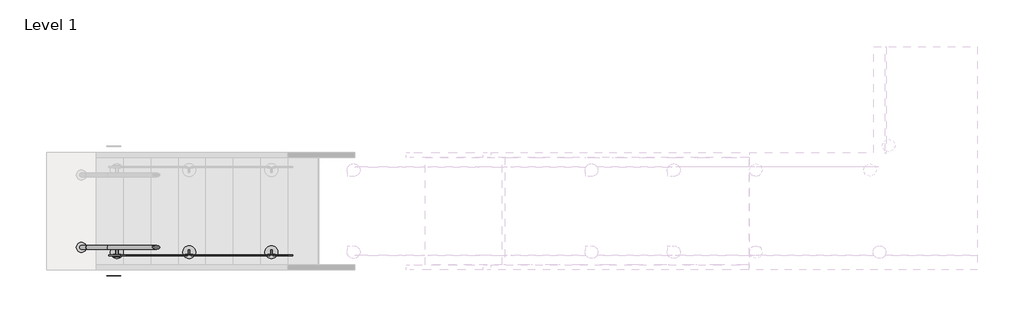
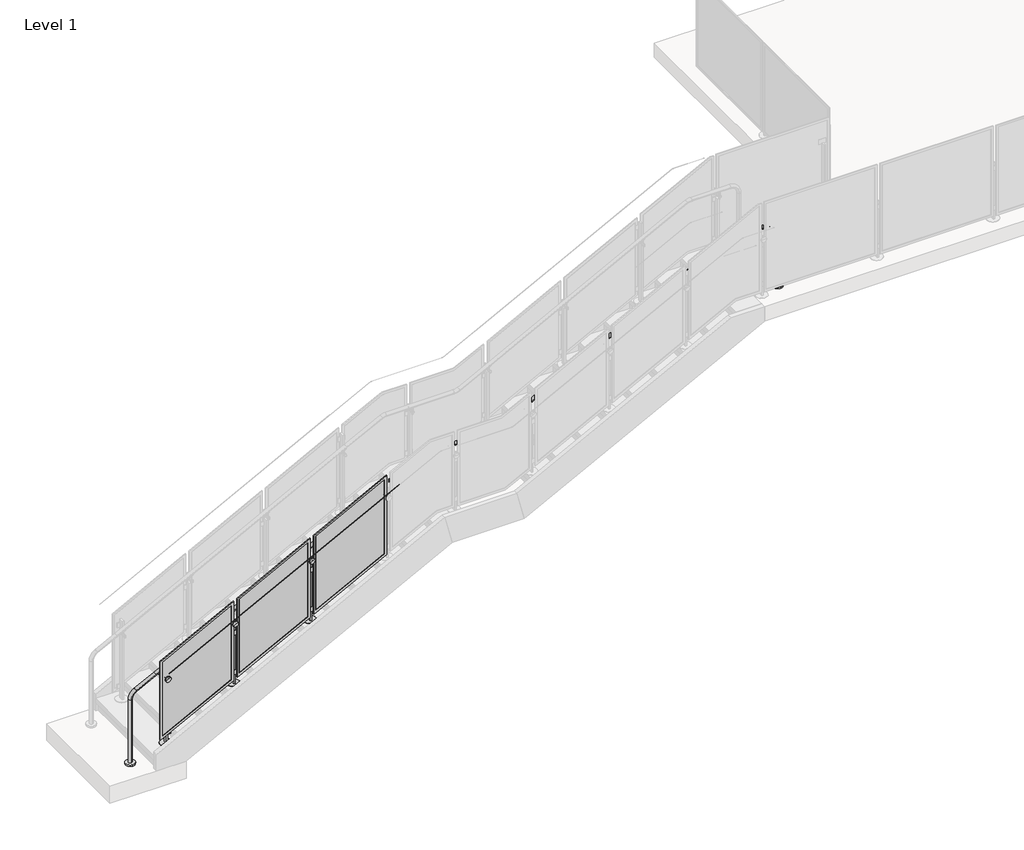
# One storey, part 23 of 28: 1 railing.
"""IFC4 building model written with IfcOpenShell, lengths in millimetres."""

from ifc_helpers import new_model, si_unit, point, frame, frame_2d, origin, place, context, project, spatial, polyline, circle_curve, ellipse_curve, trimmed, segment, composite_curve, outline, extrude, element, save
from ifc_brep_helpers import plane_surface, cylinder_surface, revolved_surface, advanced_brep

model = new_model("IFC4")

# Units and contexts
model_context = context("Model", 3, world=origin())
ifc_project = project(units=[si_unit("LENGTHUNIT", "METRE", prefix="MILLI")], contexts=[model_context])

# Site, building, storey
site = spatial("IfcSite", under=ifc_project)
building = spatial("IfcBuilding", under=site)
storey = spatial("IfcBuildingStorey", under=building, Name="Level 1", Elevation=0.0)

# Railing
placement = place(None, origin())
element("IfcRailing", 1, ObjectType="Metal-Panel-VIVA-STRUC-Top_Core-Stairs--Lower", at=placement, inside=storey, context=model_context, shape_type="SolidModel", body=[
    extrude(outline(composite_curve([segment(trimmed(circle_curve(frame_2d((-12073.0515794, 8556.3431722)), 50.8), [point((-12073.0515794, 8505.5431722))], [point((-12073.0515794, 8607.1431722))], False, "CARTESIAN"), True, "CONTINUOUS"), segment(trimmed(circle_curve(frame_2d((-12073.0515794, 8556.3431722)), 50.8), [point((-12073.0515794, 8607.1431722))], [point((-12073.0515794, 8505.5431722))], False, "CARTESIAN"), True, "CONTINUOUS")], self_intersect=False)), frame((0.0, 0.0, 3047.9164465), z_axis=(0.0, 0.0, 1.0), x_axis=(1.0, 0.0, 0.0)), (0.0, 0.0, 1.0), 19.05),
    extrude(outline(composite_curve([segment(trimmed(circle_curve(frame_2d((-19157.6813244, 8556.3431722)), 50.8), [point((-19157.6813244, 8607.1431722))], [point((-19157.6813244, 8505.5431722))], False, "CARTESIAN"), True, "CONTINUOUS"), segment(trimmed(circle_curve(frame_2d((-19157.6813244, 8556.3431722)), 50.8), [point((-19157.6813244, 8505.5431722))], [point((-19157.6813244, 8607.1431722))], False, "CARTESIAN"), True, "CONTINUOUS")], self_intersect=False)), frame((0.0, 0.0, -0.1113211), z_axis=(0.0, 0.0, 1.0), x_axis=(1.0, 0.0, 0.0)), (0.0, 0.0, 1.0), 19.05),
    advanced_brep(
    [(-19157.6813244, 8537.2931722, 18.9386789), (-19157.6813244, 8575.3931722, 18.9386789), (-19157.6813244, 8537.2931722, 743.6520958), (-19157.6813244, 8575.3931722, 743.6520958), (-19102.917891, 8575.3931722, 833.8124864), (-19102.917891, 8537.2931722, 833.8124864), (-18888.5494682, 8537.2931722, 945.172706), (-18888.5494682, 8575.3931722, 945.172706), (-16373.9494682, 8537.2931722, 2251.4584203), (-16373.9494682, 8575.3931722, 2251.4584203), (-15937.6556338, 8575.3931722, 2465.2134935), (-15937.6556338, 8537.2931722, 2465.2134935), (-15199.5082651, 8537.2931722, 2465.2134935), (-15199.5082651, 8575.3931722, 2465.2134935), (-15135.1079861, 8575.3931722, 2480.9429564), (-15135.1079861, 8537.2931722, 2480.9429564), (-12645.7274553, 8537.2931722, 3774.1276477), (-12645.7274553, 8575.3931722, 3774.1276477), (-15984.4922003, 8537.2931722, 2453.7738841), (-15984.4922003, 8575.3931722, 2453.7738841), (-12598.8908888, 8575.3931722, 3785.5672571), (-12598.8908888, 8537.2931722, 3785.5672571), (-12174.6515794, 8537.2931722, 3785.5672571), (-12174.6515794, 8575.3931722, 3785.5672571), (-12073.0515794, 8575.3931722, 3683.9672571), (-12073.0515794, 8537.2931722, 3683.9672571), (-12073.0515794, 8537.2931722, 3066.9664465), (-12073.0515794, 8575.3931722, 3066.9664465)],
    [
        (0, 1, circle_curve(frame((-19157.6813244, 8556.3431722, 18.9386789), z_axis=(0.0, 0.0, -1.0), x_axis=(0.0, 1.0, 0.0)), 19.05)),
        (1, 0, circle_curve(frame((-19157.6813244, 8556.3431722, 18.9386789), z_axis=(0.0, 0.0, -1.0), x_axis=(0.0, 1.0, 0.0)), 19.05)),
        (0, 2),
        (2, 3, circle_curve(frame((-19157.6813244, 8556.3431722, 743.6520958), z_axis=(0.0, 0.0, -1.0), x_axis=(0.0, 1.0, 0.0)), 19.05)),
        (3, 1),
        (3, 2, circle_curve(frame((-19157.6813244, 8556.3431722, 743.6520958), z_axis=(0.0, 0.0, -1.0), x_axis=(0.0, 1.0, 0.0)), 19.05)),
        (4, 3, circle_curve(frame((-19056.0813244, 8575.3931722, 743.6520958), z_axis=(0.0, -1.0, 0.0), x_axis=(-0.9999999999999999, 0.0, 0.0)), 101.6)),
        (2, 5, circle_curve(frame((-19056.0813244, 8537.2931722, 743.6520958), z_axis=(0.0, 1.0, 0.0), x_axis=(-0.9999999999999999, 0.0, 0.0)), 101.6)),
        (5, 4, circle_curve(frame((-19102.917891, 8556.3431722, 833.8124864), z_axis=(-0.8874054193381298, 0.0, -0.46098982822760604), x_axis=(0.0, 0.9999999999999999, 0.0)), 19.05)),
        (4, 5, circle_curve(frame((-19102.917891, 8556.3431722, 833.8124864), z_axis=(-0.8874054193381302, 0.0, -0.46098982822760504), x_axis=(0.0, 0.9999999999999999, 0.0)), 19.05)),
        (5, 6),
        (6, 7, circle_curve(frame((-18888.5494682, 8556.3431722, 945.172706), z_axis=(-0.8874054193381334, 0.0, -0.46098982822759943), x_axis=(0.0, 1.0, 0.0)), 19.05)),
        (7, 4),
        (7, 6, circle_curve(frame((-18888.5494682, 8556.3431722, 945.172706), z_axis=(-0.8874054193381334, 0.0, -0.46098982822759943), x_axis=(0.0, 1.0, 0.0)), 19.05)),
        (6, 8),
        (8, 9, circle_curve(frame((-16373.9494682, 8556.3431722, 2251.4584203), z_axis=(-0.8874054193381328, 0.0, -0.46098982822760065), x_axis=(0.0, 1.0, 0.0)), 19.05)),
        (9, 7),
        (9, 8, circle_curve(frame((-16373.9494682, 8556.3431722, 2251.4584203), z_axis=(-0.8874054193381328, 0.0, -0.46098982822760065), x_axis=(0.0, 1.0, 0.0)), 19.05)),
        (10, 11, circle_curve(frame((-15937.6556338, 8556.3431722, 2465.2134935), z_axis=(1.0, 0.0, 0.0), x_axis=(0.0, 1.0, 0.0)), 19.05)),
        (11, 12),
        (12, 13, circle_curve(frame((-15199.5082651, 8556.3431722, 2465.2134935), z_axis=(-1.0, 0.0, 0.0), x_axis=(0.0, 1.0, 0.0)), 19.05)),
        (13, 10),
        (11, 10, circle_curve(frame((-15937.6556338, 8556.3431722, 2465.2134935), z_axis=(1.0, 0.0, 0.0), x_axis=(0.0, 1.0, 0.0)), 19.05)),
        (13, 12, circle_curve(frame((-15199.5082651, 8556.3431722, 2465.2134935), z_axis=(-1.0, 0.0, 0.0), x_axis=(0.0, 1.0, 0.0)), 19.05)),
        (14, 15, circle_curve(frame((-15135.1079861, 8556.3431722, 2480.9429564), z_axis=(0.887405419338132, 0.0, 0.46098982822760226), x_axis=(0.0, 1.0, 0.0)), 19.05)),
        (15, 16),
        (16, 17, circle_curve(frame((-12645.7274553, 8556.3431722, 3774.1276477), z_axis=(-0.887405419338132, 0.0, -0.46098982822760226), x_axis=(0.0, 1.0, 0.0)), 19.05)),
        (17, 14),
        (15, 14, circle_curve(frame((-15135.1079861, 8556.3431722, 2480.9429564), z_axis=(0.887405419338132, 0.0, 0.46098982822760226), x_axis=(0.0, 1.0, 0.0)), 19.05)),
        (17, 16, circle_curve(frame((-12645.7274553, 8556.3431722, 3774.1276477), z_axis=(-0.887405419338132, 0.0, -0.46098982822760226), x_axis=(0.0, 1.0, 0.0)), 19.05)),
        (14, 13, circle_curve(frame((-15199.5082651, 8575.3931722, 2604.9134935), z_axis=(0.0, 1.0, 0.0), x_axis=(0.0, 0.0, -1.0)), 139.7)),
        (12, 15, circle_curve(frame((-15199.5082651, 8537.2931722, 2604.9134935), z_axis=(0.0, -1.0, 0.0), x_axis=(0.0, 0.0, -1.0)), 139.7)),
        (8, 18),
        (18, 19, circle_curve(frame((-15984.4922003, 8556.3431722, 2453.7738841), z_axis=(-0.8874054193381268, 0.0, -0.46098982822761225), x_axis=(0.0, 1.0, 0.0)), 19.05)),
        (19, 9),
        (19, 18, circle_curve(frame((-15984.4922003, 8556.3431722, 2453.7738841), z_axis=(-0.8874054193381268, 0.0, -0.46098982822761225), x_axis=(0.0, 1.0, 0.0)), 19.05)),
        (10, 19, circle_curve(frame((-15937.6556338, 8575.3931722, 2363.6134935), z_axis=(0.0, -1.0, 0.0), x_axis=(-0.4609898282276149, 0.0, 0.8874054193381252)), 101.6)),
        (18, 11, circle_curve(frame((-15937.6556338, 8537.2931722, 2363.6134935), z_axis=(0.0, 1.0, 0.0), x_axis=(-0.4609898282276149, 0.0, 0.8874054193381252)), 101.6)),
        (20, 17, circle_curve(frame((-12598.8908888, 8575.3931722, 3683.9672571), z_axis=(0.0, -1.0, 0.0), x_axis=(-0.4609898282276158, 0.0, 0.8874054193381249)), 101.6)),
        (16, 21, circle_curve(frame((-12598.8908888, 8537.2931722, 3683.9672571), z_axis=(0.0, 1.0, 0.0), x_axis=(-0.4609898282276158, 0.0, 0.8874054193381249)), 101.6)),
        (21, 20, circle_curve(frame((-12598.8908888, 8556.3431722, 3785.5672571), z_axis=(-1.0, 0.0, 0.0), x_axis=(0.0, 1.0, 0.0)), 19.05)),
        (20, 21, circle_curve(frame((-12598.8908888, 8556.3431722, 3785.5672571), z_axis=(-1.0, 0.0, 0.0), x_axis=(0.0, 1.0, 0.0)), 19.05)),
        (21, 22),
        (22, 23, circle_curve(frame((-12174.6515794, 8556.3431722, 3785.5672571), z_axis=(-1.0, 0.0, 0.0), x_axis=(0.0, 1.0, 0.0)), 19.05)),
        (23, 20),
        (23, 22, circle_curve(frame((-12174.6515794, 8556.3431722, 3785.5672571), z_axis=(-1.0, 0.0, 0.0), x_axis=(0.0, 1.0, 0.0)), 19.05)),
        (24, 23, circle_curve(frame((-12174.6515794, 8575.3931722, 3683.9672571), z_axis=(0.0, -1.0, 0.0), x_axis=(0.0, 0.0, 1.0)), 101.6)),
        (22, 25, circle_curve(frame((-12174.6515794, 8537.2931722, 3683.9672571), z_axis=(0.0, 1.0, 0.0), x_axis=(0.0, 0.0, 1.0)), 101.6)),
        (25, 24, circle_curve(frame((-12073.0515794, 8556.3431722, 3683.9672571), z_axis=(0.0, 0.0, 1.0), x_axis=(0.0, 1.0, 0.0)), 19.05)),
        (24, 25, circle_curve(frame((-12073.0515794, 8556.3431722, 3683.9672571), z_axis=(0.0, 0.0, 1.0), x_axis=(0.0, 1.0, 0.0)), 19.05)),
        (26, 27, circle_curve(frame((-12073.0515794, 8556.3431722, 3066.9664465), z_axis=(0.0, 0.0, -1.0), x_axis=(0.0, 1.0, 0.0)), 19.05)),
        (27, 26, circle_curve(frame((-12073.0515794, 8556.3431722, 3066.9664465), z_axis=(0.0, 0.0, -1.0), x_axis=(0.0, 1.0, 0.0)), 19.05)),
        (25, 26),
        (27, 24),
    ],
    [
        plane_surface(frame((-19176.7313244, 8518.2431722, 18.9386789), z_axis=(0.0, 0.0, -1.0), x_axis=(1.0, 0.0, 0.0))),
        cylinder_surface(frame((-19157.6813244, 8556.3431722, 18.9386789), z_axis=(0.0, 0.0, -1.0), x_axis=(0.0, 1.0, 0.0)), 19.05),
        revolved_surface(trimmed(ellipse_curve(frame((-19157.6813244, 8556.3431722, 743.6520958), z_axis=(0.0, 0.0, -0.9999999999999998), x_axis=(0.0, 0.9999999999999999, 0.0)), 19.05, 19.05), [point((-19157.6813244, 8537.2931722, 743.6520958))], [point((-19157.6813244, 8575.3931722, 743.6520958))], True, "CARTESIAN"), (-19056.0813244, 8556.3431722, 743.6520958), (0.0, 0.9999999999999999, 0.0)),
        revolved_surface(trimmed(ellipse_curve(frame((-19157.6813244, 8556.3431722, 743.6520958), z_axis=(0.0, 0.0, -0.9999999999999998), x_axis=(0.0, 0.9999999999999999, 0.0)), 19.05, 19.05), [point((-19157.6813244, 8575.3931722, 743.6520958))], [point((-19157.6813244, 8537.2931722, 743.6520958))], True, "CARTESIAN"), (-19056.0813244, 8556.3431722, 743.6520958), (0.0, 0.9999999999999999, 0.0)),
        cylinder_surface(frame((-19102.917891, 8556.3431722, 833.8124864), z_axis=(-0.8874054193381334, 0.0, -0.46098982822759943), x_axis=(0.0, 1.0, 0.0)), 19.05),
        cylinder_surface(frame((-18888.5494682, 8556.3431722, 945.172706), z_axis=(-0.8874054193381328, 0.0, -0.46098982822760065), x_axis=(0.0, 1.0, 0.0)), 19.05),
        cylinder_surface(frame((-15937.6556338, 8556.3431722, 2465.2134935), z_axis=(-1.0, 0.0, 0.0), x_axis=(0.0, 1.0, 0.0)), 19.05),
        cylinder_surface(frame((-15135.1079861, 8556.3431722, 2480.9429564), z_axis=(-0.887405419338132, 0.0, -0.46098982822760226), x_axis=(0.0, 1.0, 0.0)), 19.05),
        revolved_surface(trimmed(ellipse_curve(frame((-15199.5082651, 8556.3431722, 2465.2134935), z_axis=(-1.0, 0.0, 0.0), x_axis=(0.0, 1.0, 0.0)), 19.05, 19.05), [point((-15199.5082651, 8537.2931722, 2465.2134935))], [point((-15199.5082651, 8575.3931722, 2465.2134935))], True, "CARTESIAN"), (-15199.5082651, 8556.3431722, 2604.9134935), (0.0, -1.0, 0.0)),
        revolved_surface(trimmed(ellipse_curve(frame((-15199.5082651, 8556.3431722, 2465.2134935), z_axis=(-1.0, 0.0, 0.0), x_axis=(0.0, 1.0, 0.0)), 19.05, 19.05), [point((-15199.5082651, 8575.3931722, 2465.2134935))], [point((-15199.5082651, 8537.2931722, 2465.2134935))], True, "CARTESIAN"), (-15199.5082651, 8556.3431722, 2604.9134935), (0.0, -1.0, 0.0)),
        cylinder_surface(frame((-16373.9494682, 8556.3431722, 2251.4584203), z_axis=(-0.8874054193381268, 0.0, -0.46098982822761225), x_axis=(0.0, 1.0, 0.0)), 19.05),
        revolved_surface(trimmed(ellipse_curve(frame((-15984.4922003, 8556.3431722, 2453.7738841), z_axis=(-0.8874054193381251, 0.0, -0.4609898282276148), x_axis=(0.0, 0.9999999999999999, 0.0)), 19.05, 19.05), [point((-15984.4922003, 8537.2931722, 2453.7738841))], [point((-15984.4922003, 8575.3931722, 2453.7738841))], True, "CARTESIAN"), (-15937.6556338, 8556.3431722, 2363.6134935), (0.0, 0.9999999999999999, 0.0)),
        revolved_surface(trimmed(ellipse_curve(frame((-15984.4922003, 8556.3431722, 2453.7738841), z_axis=(-0.8874054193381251, 0.0, -0.4609898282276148), x_axis=(0.0, 0.9999999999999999, 0.0)), 19.05, 19.05), [point((-15984.4922003, 8575.3931722, 2453.7738841))], [point((-15984.4922003, 8537.2931722, 2453.7738841))], True, "CARTESIAN"), (-15937.6556338, 8556.3431722, 2363.6134935), (0.0, 0.9999999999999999, 0.0)),
        revolved_surface(trimmed(ellipse_curve(frame((-12645.7274553, 8556.3431722, 3774.1276477), z_axis=(-0.8874054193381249, 0.0, -0.4609898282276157), x_axis=(0.0, 1.0, 0.0)), 19.05, 19.05), [point((-12645.7274553, 8537.2931722, 3774.1276477))], [point((-12645.7274553, 8575.3931722, 3774.1276477))], True, "CARTESIAN"), (-12598.8908888, 8556.3431722, 3683.9672571), (0.0, 1.0, 0.0)),
        revolved_surface(trimmed(ellipse_curve(frame((-12645.7274553, 8556.3431722, 3774.1276477), z_axis=(-0.8874054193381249, 0.0, -0.4609898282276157), x_axis=(0.0, 1.0, 0.0)), 19.05, 19.05), [point((-12645.7274553, 8575.3931722, 3774.1276477))], [point((-12645.7274553, 8537.2931722, 3774.1276477))], True, "CARTESIAN"), (-12598.8908888, 8556.3431722, 3683.9672571), (0.0, 1.0, 0.0)),
        cylinder_surface(frame((-12598.8908888, 8556.3431722, 3785.5672571), z_axis=(-1.0, 0.0, 0.0), x_axis=(0.0, 1.0, 0.0)), 19.05),
        revolved_surface(trimmed(ellipse_curve(frame((-12174.6515794, 8556.3431722, 3785.5672571), z_axis=(-1.0, 0.0, 0.0), x_axis=(0.0, 1.0, 0.0)), 19.05, 19.05), [point((-12174.6515794, 8537.2931722, 3785.5672571))], [point((-12174.6515794, 8575.3931722, 3785.5672571))], True, "CARTESIAN"), (-12174.6515794, 8556.3431722, 3683.9672571), (0.0, 1.0, 0.0)),
        revolved_surface(trimmed(ellipse_curve(frame((-12174.6515794, 8556.3431722, 3785.5672571), z_axis=(-1.0, 0.0, 0.0), x_axis=(0.0, 1.0, 0.0)), 19.05, 19.05), [point((-12174.6515794, 8575.3931722, 3785.5672571))], [point((-12174.6515794, 8537.2931722, 3785.5672571))], True, "CARTESIAN"), (-12174.6515794, 8556.3431722, 3683.9672571), (0.0, 1.0, 0.0)),
        plane_surface(frame((-12054.0015794, 8518.2431722, 3066.9664465), z_axis=(0.0, 0.0, -1.0), x_axis=(-1.0, 0.0, 0.0))),
        cylinder_surface(frame((-12073.0515794, 8556.3431722, 3683.9672571), z_axis=(0.0, 0.0, 1.0), x_axis=(0.0, 1.0, 0.0)), 19.05),
    ],
    [
        (0, [[1, 2]]),
        (1, [[-1, 3, 4, 5]]),
        (1, [[-2, -5, 6, -3]]),
        (2, [[7, -4, 8, 9]]),
        (3, [[-8, -6, -7, 10]]),
        (4, [[-9, 11, 12, 13]]),
        (4, [[-10, -13, 14, -11]]),
        (5, [[-12, 15, 16, 17]]),
        (5, [[-14, -17, 18, -15]]),
        (6, [[19, 20, 21, 22]]),
        (6, [[23, -22, 24, -20]]),
        (7, [[25, 26, 27, 28]]),
        (7, [[29, -28, 30, -26]]),
        (8, [[31, -21, 32, -25]]),
        (9, [[-32, -24, -31, -29]]),
        (10, [[-16, 33, 34, 35]]),
        (10, [[-18, -35, 36, -33]]),
        (11, [[37, -34, 38, -19]]),
        (12, [[-38, -36, -37, -23]]),
        (13, [[39, -27, 40, 41]]),
        (14, [[-40, -30, -39, 42]]),
        (15, [[-41, 43, 44, 45]]),
        (15, [[-42, -45, 46, -43]]),
        (16, [[47, -44, 48, 49]]),
        (17, [[-48, -46, -47, 50]]),
        (18, [[51, 52]]),
        (19, [[-49, 53, -52, 54]]),
        (19, [[-50, -54, -51, -53]]),
    ],
),
    advanced_brep(
    [(-18897.3313244, 8263.5937722, 1127.7573389), (-18897.3313244, 8264.5937722, 1127.7573389), (-16382.7313244, 8263.5937722, 2434.0430532), (-16382.7313244, 8264.5937722, 2434.0430532)],
    [
        (0, 1, ellipse_curve(frame((-18897.3313244, 8264.0937722, 1127.7573389), z_axis=(-1.0, 0.0, 0.0), x_axis=(0.0, 0.0, -0.9999999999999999)), 0.5634403, 0.5)),
        (1, 0, ellipse_curve(frame((-18897.3313244, 8264.0937722, 1127.7573389), z_axis=(-1.0, 0.0, 0.0), x_axis=(0.0, 0.0, -0.9999999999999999)), 0.5634403, 0.5)),
        (2, 3, ellipse_curve(frame((-16382.7313244, 8264.0937722, 2434.0430532), z_axis=(1.0, 0.0, 0.0), x_axis=(0.0, 0.0, -0.9999999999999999)), 0.5634403, 0.5)),
        (3, 2, ellipse_curve(frame((-16382.7313244, 8264.0937722, 2434.0430532), z_axis=(1.0, 0.0, 0.0), x_axis=(0.0, 0.0, -0.9999999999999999)), 0.5634403, 0.5)),
        (0, 2),
        (3, 1),
    ],
    [
        plane_surface(frame((-18897.3313244, 8264.0937722, 1128.3207792), z_axis=(-1.0, 0.0, 0.0), x_axis=(0.0, 1.0, 0.0))),
        plane_surface(frame((-16382.7313244, 8264.0937722, 2434.6064935), z_axis=(1.0, 0.0, 0.0), x_axis=(0.0, 1.0, 0.0))),
        cylinder_surface(frame((-18897.1008295, 8264.0937722, 1127.8770765), z_axis=(-0.8874054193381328, 0.0, -0.4609898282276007), x_axis=(0.0, 1.0, 0.0)), 0.5),
    ],
    [
        (0, [[1, 2]]),
        (1, [[3, 4]]),
        (2, [[-1, 5, -4, 6]]),
        (2, [[-2, -6, -3, -5]]),
    ],
),
    extrude(outline(polyline([(1991.198934, -17176.4853675), (1137.4121771, -17176.4853675), (1526.663131, -16427.1772814), (2380.4498878, -16427.1772814), (1991.198934, -17176.4853675)])), frame((0.0, 8475.1125722, 0.0), z_axis=(0.0, 1.0, 0.0), x_axis=(0.0, 0.0, 1.0)), (0.0, 0.0, 1.0), 3.0),
    extrude(outline(polyline([(1095.5946033, -17201.8853675), (1511.2351675, -16401.7772814), (2422.2674616, -16401.7772814), (2006.6268974, -17201.8853675), (1095.5946033, -17201.8853675)]), holes=[polyline([(1991.198934, -17176.4853675), (2380.4498878, -16427.1772814), (1526.663131, -16427.1772814), (1137.4121771, -17176.4853675), (1991.198934, -17176.4853675)])]), frame((0.0, 8468.5875722, 0.0), z_axis=(0.0, 1.0, 0.0), x_axis=(0.0, 0.0, 1.0)), (0.0, 0.0, 1.0), 9.525),
    extrude(outline(polyline([(-17259.0320437, 8485.1469722), (-17182.8306052, 8485.1469722), (-17182.8306052, 8478.0349722), (-17259.0320437, 8478.0349722), (-17259.0320437, 8485.1469722)])), frame((0.0, 0.0, 1585.976), z_axis=(0.0, 0.0, 1.0), x_axis=(1.0, 0.0, 0.0)), (0.0, 0.0, 1.0), 50.8),
    extrude(outline(polyline([(-17259.0320437, 8485.1469722), (-17182.8306052, 8485.1469722), (-17182.8306052, 8478.0349722), (-17259.0320437, 8478.0349722), (-17259.0320437, 8485.1469722)])), frame((0.0, 0.0, 1128.776), z_axis=(0.0, 0.0, 1.0), x_axis=(1.0, 0.0, 0.0)), (0.0, 0.0, 1.0), 50.8),
    extrude(outline(composite_curve([segment(polyline([(2.99974, 1e-07), (0.0, 0.0)]), True, "CONTINUOUS"), segment(trimmed(circle_curve(frame_2d((-19.0451471, 0.0)), 19.0451471), [point((0.0, 0.0))], [point((-23.6280664, 18.4855208))], True, "CARTESIAN"), True, "CONTINUOUS"), segment(polyline([(-23.6280664, 18.4855208), (-24.3499073, 21.397116)]), True, "CONTINUOUS"), segment(trimmed(circle_curve(frame_2d((-19.0451471, 0.0)), 22.0448871), [point((-24.3499073, 21.397116))], [point((2.99974, 1e-07))], False, "CARTESIAN"), True, "CONTINUOUS")], self_intersect=False)), frame((-17283.4190349, 8539.2349722, 1757.5297189), z_axis=(0.8874054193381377, 0.0, 0.46098982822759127), x_axis=(0.28405456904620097, -0.7876022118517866, -0.5468050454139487)), (0.0, 0.0, 1.0), 79.1184357),
    advanced_brep(
    [(-17208.5341468, 8554.2349722, 1699.1899551), (-17208.5341468, 8547.0912222, 1699.1899551), (-17208.5341468, 8561.3787222, 1699.1899551), (-17244.3933931, 8547.0912222, 1768.2190042), (-17244.3933931, 8554.2349722, 1768.2190042), (-17244.3933931, 8561.3787222, 1768.2190042)],
    [
        (0, 1),
        (1, 2, circle_curve(frame((-17208.5341468, 8554.2349722, 1699.1899551), z_axis=(0.4609898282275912, 0.0, -0.8874054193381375), x_axis=(0.0, 1.0000000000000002, 0.0)), 7.14375)),
        (2, 0),
        (3, 4),
        (4, 5),
        (5, 3, circle_curve(frame((-17244.3933931, 8554.2349722, 1768.2190042), z_axis=(-0.4609898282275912, 0.0, 0.8874054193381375), x_axis=(0.0, 1.0000000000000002, 0.0)), 7.14375)),
        (2, 1, circle_curve(frame((-17208.5341468, 8554.2349722, 1699.1899551), z_axis=(0.4609898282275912, 0.0, -0.8874054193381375), x_axis=(0.0, 1.0000000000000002, 0.0)), 7.14375)),
        (3, 5, circle_curve(frame((-17244.3933931, 8554.2349722, 1768.2190042), z_axis=(-0.4609898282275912, 0.0, 0.8874054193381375), x_axis=(0.0, 1.0000000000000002, 0.0)), 7.14375)),
        (1, 3),
        (5, 2),
    ],
    [
        plane_surface(frame((-17208.5341468, 8554.2349722, 1699.1899551), z_axis=(0.4609898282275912, 0.0, -0.8874054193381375), x_axis=(0.0, 1.0, 0.0))),
        plane_surface(frame((-17244.3933931, 8554.2349722, 1768.2190042), z_axis=(-0.4609898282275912, 0.0, 0.8874054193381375), x_axis=(0.0, 1.0, 0.0))),
        cylinder_surface(frame((-17091.5799469, 8554.2349722, 1474.0531204), z_axis=(0.4609898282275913, 0.0, -0.8874054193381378), x_axis=(0.0, 1.0000000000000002, 0.0)), 7.14375),
    ],
    [
        (0, [[1, 2, 3]]),
        (1, [[4, 5, 6]]),
        (0, [[-3, 7, -1]]),
        (1, [[-5, -4, 8]]),
        (2, [[9, -6, 10, -2]]),
        (2, [[-10, -8, -9, -7]]),
    ],
),
    advanced_brep(
    [(-17247.6976904, 8468.5099722, 1709.1499164), (-17226.5663488, 8468.5099722, 1720.1272367), (-17215.2963, 8468.5099722, 1725.9818075), (-17194.1649585, 8468.5099722, 1736.9591278), (-17247.6976904, 8460.5724722, 1709.1499164), (-17194.1649585, 8460.5724722, 1736.9591278), (-17247.6976904, 8485.9724722, 1709.1499164), (-17232.2013733, 8485.9724722, 1717.1999513), (-17209.6612756, 8485.9724722, 1728.9090929), (-17194.1649585, 8485.9724722, 1736.9591278), (-17247.6976904, 8478.0349722, 1709.1499164), (-17194.1649585, 8478.0349722, 1736.9591278), (-17220.9313244, 8460.5724722, 1723.0545221), (-17232.2013733, 8565.3474722, 1717.1999513), (-17220.9313244, 8565.3474722, 1723.0545221), (-17209.6612756, 8565.3474722, 1728.9090929), (-17226.5663488, 8478.0349722, 1720.1272367), (-17215.2963, 8478.0349722, 1725.9818075)],
    [
        (0, 1),
        (1, 2, circle_curve(frame((-17220.9313244, 8468.5099722, 1723.0545221), z_axis=(0.0, -1.0, 0.0), x_axis=(0.887405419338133, 0.0, 0.46098982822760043)), 6.35)),
        (2, 3),
        (3, 0, circle_curve(frame((-17220.9313244, 8468.5099722, 1723.0545221), z_axis=(0.0, 1.0, 0.0), x_axis=(0.887405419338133, 0.0, 0.46098982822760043)), 30.1625)),
        (4, 0),
        (3, 5),
        (5, 4, circle_curve(frame((-17220.9313244, 8460.5724722, 1723.0545221), z_axis=(0.0, 1.0, 0.0), x_axis=(0.887405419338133, 0.0, 0.46098982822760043)), 30.1625)),
        (6, 7),
        (7, 8, circle_curve(frame((-17220.9313244, 8485.9724722, 1723.0545221), z_axis=(0.0, -1.0, 0.0), x_axis=(0.887405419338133, 0.0, 0.46098982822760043)), 12.7)),
        (8, 9),
        (9, 6, circle_curve(frame((-17220.9313244, 8485.9724722, 1723.0545221), z_axis=(0.0, 1.0, 0.0), x_axis=(0.887405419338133, 0.0, 0.46098982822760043)), 30.1625)),
        (10, 6),
        (9, 11),
        (11, 10, circle_curve(frame((-17220.9313244, 8478.0349722, 1723.0545221), z_axis=(0.0, 1.0, 0.0), x_axis=(0.887405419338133, 0.0, 0.46098982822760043)), 30.1625)),
        (3, 0, circle_curve(frame((-17220.9313244, 8468.5099722, 1723.0545221), z_axis=(0.0, -1.0, 0.0), x_axis=(0.887405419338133, 0.0, 0.46098982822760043)), 30.1625)),
        (4, 5, circle_curve(frame((-17220.9313244, 8460.5724722, 1723.0545221), z_axis=(0.0, 1.0, 0.0), x_axis=(0.887405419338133, 0.0, 0.46098982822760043)), 30.1625)),
        (12, 4),
        (5, 12),
        (13, 14),
        (14, 15),
        (15, 13, circle_curve(frame((-17220.9313244, 8565.3474722, 1723.0545221), z_axis=(0.0, 1.0, 0.0), x_axis=(0.887405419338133, 0.0, 0.46098982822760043)), 12.7)),
        (13, 15, circle_curve(frame((-17220.9313244, 8565.3474722, 1723.0545221), z_axis=(0.0, 1.0, 0.0), x_axis=(0.887405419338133, 0.0, 0.46098982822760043)), 12.7)),
        (7, 13),
        (15, 8),
        (7, 8, circle_curve(frame((-17220.9313244, 8485.9724722, 1723.0545221), z_axis=(0.0, 1.0, 0.0), x_axis=(0.887405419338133, 0.0, 0.46098982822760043)), 12.7)),
        (6, 9, circle_curve(frame((-17220.9313244, 8485.9724722, 1723.0545221), z_axis=(0.0, 1.0, 0.0), x_axis=(0.887405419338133, 0.0, 0.46098982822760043)), 30.1625)),
        (10, 11, circle_curve(frame((-17220.9313244, 8478.0349722, 1723.0545221), z_axis=(0.0, 1.0, 0.0), x_axis=(0.887405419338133, 0.0, 0.46098982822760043)), 30.1625)),
        (16, 10),
        (11, 17),
        (17, 16, circle_curve(frame((-17220.9313244, 8478.0349722, 1723.0545221), z_axis=(0.0, 1.0, 0.0), x_axis=(0.887405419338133, 0.0, 0.46098982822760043)), 6.35)),
        (16, 17, circle_curve(frame((-17220.9313244, 8478.0349722, 1723.0545221), z_axis=(0.0, 1.0, 0.0), x_axis=(0.887405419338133, 0.0, 0.46098982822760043)), 6.35)),
        (1, 16),
        (17, 2),
        (1, 2, circle_curve(frame((-17220.9313244, 8468.5099722, 1723.0545221), z_axis=(0.0, 1.0, 0.0), x_axis=(0.887405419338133, 0.0, 0.46098982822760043)), 6.35)),
    ],
    [
        plane_surface(frame((-17220.9313244, 8468.5099722, 1723.0545221), z_axis=(0.0, 1.0000000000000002, 0.0), x_axis=(0.887405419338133, 0.0, 0.46098982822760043))),
        cylinder_surface(frame((-17220.9313244, 6954.0349722, 1723.0545221), z_axis=(0.0, -1.0000000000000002, 0.0), x_axis=(0.887405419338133, 0.0, 0.46098982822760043)), 30.1625),
        plane_surface(frame((-17220.9313244, 8485.9724722, 1723.0545221), z_axis=(0.0, 1.0000000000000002, 0.0), x_axis=(0.887405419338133, 0.0, 0.46098982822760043))),
        plane_surface(frame((-17220.9313244, 8460.5724722, 1723.0545221), z_axis=(0.0, -1.0000000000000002, 0.0), x_axis=(0.887405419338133, 0.0, 0.46098982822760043))),
        plane_surface(frame((-17220.9313244, 8565.3474722, 1723.0545221), z_axis=(0.0, 1.0000000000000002, 0.0), x_axis=(0.887405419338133, 0.0, 0.46098982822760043))),
        cylinder_surface(frame((-17220.9313244, 6954.0349722, 1723.0545221), z_axis=(0.0, -1.0000000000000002, 0.0), x_axis=(0.887405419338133, 0.0, 0.46098982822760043)), 12.7),
        plane_surface(frame((-17220.9313244, 8478.0349722, 1723.0545221), z_axis=(0.0, -1.0000000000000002, 0.0), x_axis=(0.887405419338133, 0.0, 0.46098982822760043))),
        cylinder_surface(frame((-17220.9313244, 6954.0349722, 1723.0545221), z_axis=(0.0, -1.0000000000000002, 0.0), x_axis=(0.887405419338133, 0.0, 0.46098982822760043)), 6.35),
    ],
    [
        (0, [[1, 2, 3, 4]]),
        (1, [[5, -4, 6, 7]]),
        (2, [[8, 9, 10, 11]]),
        (1, [[12, -11, 13, 14]]),
        (1, [[-6, 15, -5, 16]]),
        (3, [[17, -7, 18]]),
        (3, [[-18, -16, -17]]),
        (4, [[19, 20, 21]]),
        (4, [[-20, -19, 22]]),
        (5, [[23, -21, 24, -9]]),
        (5, [[-24, -22, -23, 25]]),
        (2, [[-10, -25, -8, 26]]),
        (1, [[-13, -26, -12, 27]]),
        (6, [[28, -14, 29, 30]]),
        (6, [[-29, -27, -28, 31]]),
        (7, [[32, -30, 33, -2]]),
        (7, [[-33, -31, -32, 34]]),
        (0, [[-3, -34, -1, -15]]),
    ],
),
    extrude(outline(composite_curve([segment(trimmed(circle_curve(frame_2d((-17220.9313244, 8507.3719722)), 65.8876), [point((-17220.9313244, 8441.4843722))], [point((-17220.9313244, 8573.2595722))], False, "CARTESIAN"), True, "CONTINUOUS"), segment(trimmed(circle_curve(frame_2d((-17220.9313244, 8507.3719722)), 65.8876), [point((-17220.9313244, 8573.2595722))], [point((-17220.9313244, 8441.4843722))], False, "CARTESIAN"), True, "CONTINUOUS")], self_intersect=False)), frame((0.0, 0.0, 1016.0), z_axis=(0.0, 0.0, 1.0), x_axis=(1.0, 0.0, 0.0)), (0.0, 0.0, 1.0), 2.9821299),
    extrude(outline(polyline([(-17228.8709161, 8529.5969722), (-17212.9917328, 8529.5969722), (-17212.9917328, 8485.1469722), (-17228.8709161, 8485.1469722), (-17228.8709161, 8529.5969722)])), frame((0.0, 0.0, 914.4), z_axis=(0.0, 0.0, 1.0), x_axis=(1.0, 0.0, 0.0)), (0.0, 0.0, 1.0), 762.0),
    extrude(outline(polyline([(1555.7703626, -18014.6853675), (701.9836057, -18014.6853675), (1091.2345595, -17265.3772814), (1945.0213164, -17265.3772814), (1555.7703626, -18014.6853675)])), frame((0.0, 8475.1125722, 0.0), z_axis=(0.0, 1.0, 0.0), x_axis=(0.0, 0.0, 1.0)), (0.0, 0.0, 1.0), 3.0),
    extrude(outline(polyline([(660.1660319, -18040.0853675), (1075.8065961, -17239.9772814), (1986.8388902, -17239.9772814), (1571.198326, -18040.0853675), (660.1660319, -18040.0853675)]), holes=[polyline([(1555.7703626, -18014.6853675), (1945.0213164, -17265.3772814), (1091.2345595, -17265.3772814), (701.9836057, -18014.6853675), (1555.7703626, -18014.6853675)])]), frame((0.0, 8468.5875722, 0.0), z_axis=(0.0, 1.0, 0.0), x_axis=(0.0, 0.0, 1.0)), (0.0, 0.0, 1.0), 9.525),
    extrude(outline(polyline([(-18097.2320437, 8485.1469722), (-18021.0306052, 8485.1469722), (-18021.0306052, 8478.0349722), (-18097.2320437, 8478.0349722), (-18097.2320437, 8485.1469722)])), frame((0.0, 0.0, 1150.5474286), z_axis=(0.0, 0.0, 1.0), x_axis=(1.0, 0.0, 0.0)), (0.0, 0.0, 1.0), 50.8),
    extrude(outline(polyline([(-18097.2320437, 8485.1469722), (-18021.0306052, 8485.1469722), (-18021.0306052, 8478.0349722), (-18097.2320437, 8478.0349722), (-18097.2320437, 8485.1469722)])), frame((0.0, 0.0, 693.3474286), z_axis=(0.0, 0.0, 1.0), x_axis=(1.0, 0.0, 0.0)), (0.0, 0.0, 1.0), 50.8),
    extrude(outline(composite_curve([segment(polyline([(2.99974, 1e-07), (0.0, 0.0)]), True, "CONTINUOUS"), segment(trimmed(circle_curve(frame_2d((-19.0451471, 0.0)), 19.0451471), [point((0.0, 0.0))], [point((-23.6280664, 18.4855208))], True, "CARTESIAN"), True, "CONTINUOUS"), segment(polyline([(-23.6280664, 18.4855208), (-24.3499073, 21.397116)]), True, "CONTINUOUS"), segment(trimmed(circle_curve(frame_2d((-19.0451471, 0.0)), 22.0448871), [point((-24.3499073, 21.397116))], [point((2.99974, 1e-07))], False, "CARTESIAN"), True, "CONTINUOUS")], self_intersect=False)), frame((-18121.6190349, 8539.2349722, 1322.1011475), z_axis=(0.8874054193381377, 0.0, 0.46098982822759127), x_axis=(0.28405456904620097, -0.7876022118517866, -0.5468050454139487)), (0.0, 0.0, 1.0), 79.1184357),
    advanced_brep(
    [(-18046.7341468, 8554.2349722, 1263.7613837), (-18046.7341468, 8547.0912222, 1263.7613837), (-18046.7341468, 8561.3787222, 1263.7613837), (-18082.5933931, 8547.0912222, 1332.7904328), (-18082.5933931, 8554.2349722, 1332.7904328), (-18082.5933931, 8561.3787222, 1332.7904328)],
    [
        (0, 1),
        (1, 2, circle_curve(frame((-18046.7341468, 8554.2349722, 1263.7613837), z_axis=(0.4609898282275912, 0.0, -0.8874054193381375), x_axis=(0.0, 1.0000000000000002, 0.0)), 7.14375)),
        (2, 0),
        (3, 4),
        (4, 5),
        (5, 3, circle_curve(frame((-18082.5933931, 8554.2349722, 1332.7904328), z_axis=(-0.4609898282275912, 0.0, 0.8874054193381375), x_axis=(0.0, 1.0000000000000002, 0.0)), 7.14375)),
        (2, 1, circle_curve(frame((-18046.7341468, 8554.2349722, 1263.7613837), z_axis=(0.4609898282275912, 0.0, -0.8874054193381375), x_axis=(0.0, 1.0000000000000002, 0.0)), 7.14375)),
        (3, 5, circle_curve(frame((-18082.5933931, 8554.2349722, 1332.7904328), z_axis=(-0.4609898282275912, 0.0, 0.8874054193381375), x_axis=(0.0, 1.0000000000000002, 0.0)), 7.14375)),
        (1, 3),
        (5, 2),
    ],
    [
        plane_surface(frame((-18046.7341468, 8554.2349722, 1263.7613837), z_axis=(0.4609898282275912, 0.0, -0.8874054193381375), x_axis=(0.0, 1.0, 0.0))),
        plane_surface(frame((-18082.5933931, 8554.2349722, 1332.7904328), z_axis=(-0.4609898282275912, 0.0, 0.8874054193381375), x_axis=(0.0, 1.0, 0.0))),
        cylinder_surface(frame((-17929.7799469, 8554.2349722, 1038.624549), z_axis=(0.4609898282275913, 0.0, -0.8874054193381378), x_axis=(0.0, 1.0000000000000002, 0.0)), 7.14375),
    ],
    [
        (0, [[1, 2, 3]]),
        (1, [[4, 5, 6]]),
        (0, [[-3, 7, -1]]),
        (1, [[-5, -4, 8]]),
        (2, [[9, -6, 10, -2]]),
        (2, [[-10, -8, -9, -7]]),
    ],
),
    advanced_brep(
    [(-18085.8976904, 8468.5099722, 1273.721345), (-18064.7663488, 8468.5099722, 1284.6986652), (-18053.4963, 8468.5099722, 1290.5532361), (-18032.3649585, 8468.5099722, 1301.5305563), (-18085.8976904, 8460.5724722, 1273.721345), (-18032.3649585, 8460.5724722, 1301.5305563), (-18085.8976904, 8485.9724722, 1273.721345), (-18070.4013733, 8485.9724722, 1281.7713798), (-18047.8612756, 8485.9724722, 1293.4805215), (-18032.3649585, 8485.9724722, 1301.5305563), (-18085.8976904, 8478.0349722, 1273.721345), (-18032.3649585, 8478.0349722, 1301.5305563), (-18059.1313244, 8460.5724722, 1287.6259506), (-18070.4013733, 8565.3474722, 1281.7713798), (-18059.1313244, 8565.3474722, 1287.6259506), (-18047.8612756, 8565.3474722, 1293.4805215), (-18064.7663488, 8478.0349722, 1284.6986652), (-18053.4963, 8478.0349722, 1290.5532361)],
    [
        (0, 1),
        (1, 2, circle_curve(frame((-18059.1313244, 8468.5099722, 1287.6259506), z_axis=(0.0, -1.0, 0.0), x_axis=(0.887405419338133, 0.0, 0.46098982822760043)), 6.35)),
        (2, 3),
        (3, 0, circle_curve(frame((-18059.1313244, 8468.5099722, 1287.6259506), z_axis=(0.0, 1.0, 0.0), x_axis=(0.887405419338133, 0.0, 0.46098982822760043)), 30.1625)),
        (4, 0),
        (3, 5),
        (5, 4, circle_curve(frame((-18059.1313244, 8460.5724722, 1287.6259506), z_axis=(0.0, 1.0, 0.0), x_axis=(0.887405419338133, 0.0, 0.46098982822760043)), 30.1625)),
        (6, 7),
        (7, 8, circle_curve(frame((-18059.1313244, 8485.9724722, 1287.6259506), z_axis=(0.0, -1.0, 0.0), x_axis=(0.887405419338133, 0.0, 0.46098982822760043)), 12.7)),
        (8, 9),
        (9, 6, circle_curve(frame((-18059.1313244, 8485.9724722, 1287.6259506), z_axis=(0.0, 1.0, 0.0), x_axis=(0.887405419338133, 0.0, 0.46098982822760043)), 30.1625)),
        (10, 6),
        (9, 11),
        (11, 10, circle_curve(frame((-18059.1313244, 8478.0349722, 1287.6259506), z_axis=(0.0, 1.0, 0.0), x_axis=(0.887405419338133, 0.0, 0.46098982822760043)), 30.1625)),
        (3, 0, circle_curve(frame((-18059.1313244, 8468.5099722, 1287.6259506), z_axis=(0.0, -1.0, 0.0), x_axis=(0.887405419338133, 0.0, 0.46098982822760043)), 30.1625)),
        (4, 5, circle_curve(frame((-18059.1313244, 8460.5724722, 1287.6259506), z_axis=(0.0, 1.0, 0.0), x_axis=(0.887405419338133, 0.0, 0.46098982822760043)), 30.1625)),
        (12, 4),
        (5, 12),
        (13, 14),
        (14, 15),
        (15, 13, circle_curve(frame((-18059.1313244, 8565.3474722, 1287.6259506), z_axis=(0.0, 1.0, 0.0), x_axis=(0.887405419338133, 0.0, 0.46098982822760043)), 12.7)),
        (13, 15, circle_curve(frame((-18059.1313244, 8565.3474722, 1287.6259506), z_axis=(0.0, 1.0, 0.0), x_axis=(0.887405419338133, 0.0, 0.46098982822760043)), 12.7)),
        (7, 13),
        (15, 8),
        (7, 8, circle_curve(frame((-18059.1313244, 8485.9724722, 1287.6259506), z_axis=(0.0, 1.0, 0.0), x_axis=(0.887405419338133, 0.0, 0.46098982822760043)), 12.7)),
        (6, 9, circle_curve(frame((-18059.1313244, 8485.9724722, 1287.6259506), z_axis=(0.0, 1.0, 0.0), x_axis=(0.887405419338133, 0.0, 0.46098982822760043)), 30.1625)),
        (10, 11, circle_curve(frame((-18059.1313244, 8478.0349722, 1287.6259506), z_axis=(0.0, 1.0, 0.0), x_axis=(0.887405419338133, 0.0, 0.46098982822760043)), 30.1625)),
        (16, 10),
        (11, 17),
        (17, 16, circle_curve(frame((-18059.1313244, 8478.0349722, 1287.6259506), z_axis=(0.0, 1.0, 0.0), x_axis=(0.887405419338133, 0.0, 0.46098982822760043)), 6.35)),
        (16, 17, circle_curve(frame((-18059.1313244, 8478.0349722, 1287.6259506), z_axis=(0.0, 1.0, 0.0), x_axis=(0.887405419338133, 0.0, 0.46098982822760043)), 6.35)),
        (1, 16),
        (17, 2),
        (1, 2, circle_curve(frame((-18059.1313244, 8468.5099722, 1287.6259506), z_axis=(0.0, 1.0, 0.0), x_axis=(0.887405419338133, 0.0, 0.46098982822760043)), 6.35)),
    ],
    [
        plane_surface(frame((-18059.1313244, 8468.5099722, 1287.6259506), z_axis=(0.0, 1.0000000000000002, 0.0), x_axis=(0.887405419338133, 0.0, 0.46098982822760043))),
        cylinder_surface(frame((-18059.1313244, 6954.0349722, 1287.6259506), z_axis=(0.0, -1.0000000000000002, 0.0), x_axis=(0.887405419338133, 0.0, 0.46098982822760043)), 30.1625),
        plane_surface(frame((-18059.1313244, 8485.9724722, 1287.6259506), z_axis=(0.0, 1.0000000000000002, 0.0), x_axis=(0.887405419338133, 0.0, 0.46098982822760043))),
        plane_surface(frame((-18059.1313244, 8460.5724722, 1287.6259506), z_axis=(0.0, -1.0000000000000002, 0.0), x_axis=(0.887405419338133, 0.0, 0.46098982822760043))),
        plane_surface(frame((-18059.1313244, 8565.3474722, 1287.6259506), z_axis=(0.0, 1.0000000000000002, 0.0), x_axis=(0.887405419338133, 0.0, 0.46098982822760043))),
        cylinder_surface(frame((-18059.1313244, 6954.0349722, 1287.6259506), z_axis=(0.0, -1.0000000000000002, 0.0), x_axis=(0.887405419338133, 0.0, 0.46098982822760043)), 12.7),
        plane_surface(frame((-18059.1313244, 8478.0349722, 1287.6259506), z_axis=(0.0, -1.0000000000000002, 0.0), x_axis=(0.887405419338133, 0.0, 0.46098982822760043))),
        cylinder_surface(frame((-18059.1313244, 6954.0349722, 1287.6259506), z_axis=(0.0, -1.0000000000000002, 0.0), x_axis=(0.887405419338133, 0.0, 0.46098982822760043)), 6.35),
    ],
    [
        (0, [[1, 2, 3, 4]]),
        (1, [[5, -4, 6, 7]]),
        (2, [[8, 9, 10, 11]]),
        (1, [[12, -11, 13, 14]]),
        (1, [[-6, 15, -5, 16]]),
        (3, [[17, -7, 18]]),
        (3, [[-18, -16, -17]]),
        (4, [[19, 20, 21]]),
        (4, [[-20, -19, 22]]),
        (5, [[23, -21, 24, -9]]),
        (5, [[-24, -22, -23, 25]]),
        (2, [[-10, -25, -8, 26]]),
        (1, [[-13, -26, -12, 27]]),
        (6, [[28, -14, 29, 30]]),
        (6, [[-29, -27, -28, 31]]),
        (7, [[32, -30, 33, -2]]),
        (7, [[-33, -31, -32, 34]]),
        (0, [[-3, -34, -1, -15]]),
    ],
),
    extrude(outline(composite_curve([segment(trimmed(circle_curve(frame_2d((-18059.1313244, 8507.3719722)), 65.8876), [point((-18059.1313244, 8441.4843722))], [point((-18059.1313244, 8573.2595722))], False, "CARTESIAN"), True, "CONTINUOUS"), segment(trimmed(circle_curve(frame_2d((-18059.1313244, 8507.3719722)), 65.8876), [point((-18059.1313244, 8573.2595722))], [point((-18059.1313244, 8441.4843722))], False, "CARTESIAN"), True, "CONTINUOUS")], self_intersect=False)), frame((0.0, 0.0, 580.5714286), z_axis=(0.0, 0.0, 1.0), x_axis=(1.0, 0.0, 0.0)), (0.0, 0.0, 1.0), 2.9821299),
    extrude(outline(polyline([(-18067.0709161, 8529.5969722), (-18051.1917328, 8529.5969722), (-18051.1917328, 8485.1469722), (-18067.0709161, 8485.1469722), (-18067.0709161, 8529.5969722)])), frame((0.0, 0.0, 478.9714286), z_axis=(0.0, 0.0, 1.0), x_axis=(1.0, 0.0, 0.0)), (0.0, 0.0, 1.0), 762.0),
    extrude(outline(polyline([(1120.3417911, -18852.8853675), (266.5550343, -18852.8853675), (655.8059881, -18103.5772814), (1509.592745, -18103.5772814), (1120.3417911, -18852.8853675)])), frame((0.0, 8475.1125722, 0.0), z_axis=(0.0, 1.0, 0.0), x_axis=(0.0, 0.0, 1.0)), (0.0, 0.0, 1.0), 3.0),
    extrude(outline(polyline([(224.7374604, -18878.2853675), (640.3780247, -18078.1772814), (1551.4103188, -18078.1772814), (1135.7697546, -18878.2853675), (224.7374604, -18878.2853675)]), holes=[polyline([(1120.3417911, -18852.8853675), (1509.592745, -18103.5772814), (655.8059881, -18103.5772814), (266.5550343, -18852.8853675), (1120.3417911, -18852.8853675)])]), frame((0.0, 8468.5875722, 0.0), z_axis=(0.0, 1.0, 0.0), x_axis=(0.0, 0.0, 1.0)), (0.0, 0.0, 1.0), 9.525),
    extrude(outline(polyline([(-18833.8320437, 8485.1469722), (-18757.6306052, 8485.1469722), (-18757.6306052, 8478.0349722), (-18833.8320437, 8478.0349722), (-18833.8320437, 8485.1469722)])), frame((0.0, 0.0, 969.1188571), z_axis=(0.0, 0.0, 1.0), x_axis=(1.0, 0.0, 0.0)), (0.0, 0.0, 1.0), 50.8),
    extrude(outline(polyline([(-18833.8320437, 8485.1469722), (-18757.6306052, 8485.1469722), (-18757.6306052, 8478.0349722), (-18833.8320437, 8478.0349722), (-18833.8320437, 8485.1469722)])), frame((0.0, 0.0, 257.9188571), z_axis=(0.0, 0.0, 1.0), x_axis=(1.0, 0.0, 0.0)), (0.0, 0.0, 1.0), 50.8),
    extrude(outline(composite_curve([segment(polyline([(2.9997399, 0.0), (0.0, 0.0)]), True, "CONTINUOUS"), segment(trimmed(circle_curve(frame_2d((-19.0451472, -1e-07)), 19.0451471), [point((0.0, 0.0))], [point((-23.6280664, 18.4855208))], True, "CARTESIAN"), True, "CONTINUOUS"), segment(polyline([(-23.6280664, 18.4855208), (-24.3499073, 21.3971159)]), True, "CONTINUOUS"), segment(trimmed(circle_curve(frame_2d((-19.0451472, -1e-07)), 22.0448871), [point((-24.3499073, 21.3971159))], [point((2.9997399, 0.0))], False, "CARTESIAN"), True, "CONTINUOUS")], self_intersect=False)), frame((-18858.2190349, 8539.2349722, 939.4517968), z_axis=(0.8874054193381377, 0.0, 0.4609898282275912), x_axis=(0.28405456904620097, -0.7876022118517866, -0.5468050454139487)), (0.0, 0.0, 1.0), 79.1184357),
    advanced_brep(
    [(-18783.3341468, 8554.2349722, 881.1120331), (-18783.3341468, 8547.0912222, 881.1120331), (-18783.3341468, 8561.3787222, 881.1120331), (-18819.1933931, 8547.0912222, 950.1410821), (-18819.1933931, 8554.2349722, 950.1410821), (-18819.1933931, 8561.3787222, 950.1410821)],
    [
        (0, 1),
        (1, 2, circle_curve(frame((-18783.3341468, 8554.2349722, 881.1120331), z_axis=(0.4609898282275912, 0.0, -0.8874054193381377), x_axis=(0.0, 1.0, 0.0)), 7.14375)),
        (2, 0),
        (3, 4),
        (4, 5),
        (5, 3, circle_curve(frame((-18819.1933931, 8554.2349722, 950.1410821), z_axis=(-0.4609898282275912, 0.0, 0.8874054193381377), x_axis=(0.0, 1.0, 0.0)), 7.14375)),
        (2, 1, circle_curve(frame((-18783.3341468, 8554.2349722, 881.1120331), z_axis=(0.4609898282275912, 0.0, -0.8874054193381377), x_axis=(0.0, 1.0, 0.0)), 7.14375)),
        (3, 5, circle_curve(frame((-18819.1933931, 8554.2349722, 950.1410821), z_axis=(-0.4609898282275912, 0.0, 0.8874054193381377), x_axis=(0.0, 1.0, 0.0)), 7.14375)),
        (1, 3),
        (5, 2),
    ],
    [
        plane_surface(frame((-18783.3341468, 8554.2349722, 881.1120331), z_axis=(0.4609898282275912, 0.0, -0.8874054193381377), x_axis=(0.0, 1.0, 0.0))),
        plane_surface(frame((-18819.1933931, 8554.2349722, 950.1410821), z_axis=(-0.4609898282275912, 0.0, 0.8874054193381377), x_axis=(0.0, 1.0, 0.0))),
        cylinder_surface(frame((-18666.3799469, 8554.2349722, 655.9751983), z_axis=(0.4609898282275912, 0.0, -0.8874054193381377), x_axis=(0.0, 1.0, 0.0)), 7.14375),
    ],
    [
        (0, [[1, 2, 3]]),
        (1, [[4, 5, 6]]),
        (0, [[-3, 7, -1]]),
        (1, [[-5, -4, 8]]),
        (2, [[9, -6, 10, -2]]),
        (2, [[-10, -8, -9, -7]]),
    ],
),
    advanced_brep(
    [(-18822.4976904, 8468.5099722, 891.0719943), (-18801.3663488, 8468.5099722, 902.0493146), (-18790.0963, 8468.5099722, 907.9038854), (-18768.9649585, 8468.5099722, 918.8812057), (-18822.4976904, 8460.5724722, 891.0719943), (-18768.9649585, 8460.5724722, 918.8812057), (-18822.4976904, 8485.9724722, 891.0719943), (-18807.0013733, 8485.9724722, 899.1220292), (-18784.4612756, 8485.9724722, 910.8311708), (-18768.9649585, 8485.9724722, 918.8812057), (-18822.4976904, 8478.0349722, 891.0719943), (-18768.9649585, 8478.0349722, 918.8812057), (-18795.7313244, 8460.5724722, 904.9766), (-18807.0013733, 8565.3474722, 899.1220292), (-18795.7313244, 8565.3474722, 904.9766), (-18784.4612756, 8565.3474722, 910.8311708), (-18801.3663488, 8478.0349722, 902.0493146), (-18790.0963, 8478.0349722, 907.9038854)],
    [
        (0, 1),
        (1, 2, circle_curve(frame((-18795.7313244, 8468.5099722, 904.9766), z_axis=(0.0, -1.0, 0.0), x_axis=(0.8874054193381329, 0.0, 0.4609898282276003)), 6.35)),
        (2, 3),
        (3, 0, circle_curve(frame((-18795.7313244, 8468.5099722, 904.9766), z_axis=(0.0, 1.0, 0.0), x_axis=(0.8874054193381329, 0.0, 0.4609898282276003)), 30.1625)),
        (4, 0),
        (3, 5),
        (5, 4, circle_curve(frame((-18795.7313244, 8460.5724722, 904.9766), z_axis=(0.0, 1.0, 0.0), x_axis=(0.8874054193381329, 0.0, 0.4609898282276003)), 30.1625)),
        (6, 7),
        (7, 8, circle_curve(frame((-18795.7313244, 8485.9724722, 904.9766), z_axis=(0.0, -1.0, 0.0), x_axis=(0.8874054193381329, 0.0, 0.4609898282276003)), 12.7)),
        (8, 9),
        (9, 6, circle_curve(frame((-18795.7313244, 8485.9724722, 904.9766), z_axis=(0.0, 1.0, 0.0), x_axis=(0.8874054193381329, 0.0, 0.4609898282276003)), 30.1625)),
        (10, 6),
        (9, 11),
        (11, 10, circle_curve(frame((-18795.7313244, 8478.0349722, 904.9766), z_axis=(0.0, 1.0, 0.0), x_axis=(0.8874054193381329, 0.0, 0.4609898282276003)), 30.1625)),
        (3, 0, circle_curve(frame((-18795.7313244, 8468.5099722, 904.9766), z_axis=(0.0, -1.0, 0.0), x_axis=(0.8874054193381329, 0.0, 0.4609898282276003)), 30.1625)),
        (4, 5, circle_curve(frame((-18795.7313244, 8460.5724722, 904.9766), z_axis=(0.0, 1.0, 0.0), x_axis=(0.8874054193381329, 0.0, 0.4609898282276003)), 30.1625)),
        (12, 4),
        (5, 12),
        (13, 14),
        (14, 15),
        (15, 13, circle_curve(frame((-18795.7313244, 8565.3474722, 904.9766), z_axis=(0.0, 1.0, 0.0), x_axis=(0.8874054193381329, 0.0, 0.4609898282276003)), 12.7)),
        (13, 15, circle_curve(frame((-18795.7313244, 8565.3474722, 904.9766), z_axis=(0.0, 1.0, 0.0), x_axis=(0.8874054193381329, 0.0, 0.4609898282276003)), 12.7)),
        (7, 13),
        (15, 8),
        (7, 8, circle_curve(frame((-18795.7313244, 8485.9724722, 904.9766), z_axis=(0.0, 1.0, 0.0), x_axis=(0.8874054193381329, 0.0, 0.4609898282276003)), 12.7)),
        (6, 9, circle_curve(frame((-18795.7313244, 8485.9724722, 904.9766), z_axis=(0.0, 1.0, 0.0), x_axis=(0.8874054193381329, 0.0, 0.4609898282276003)), 30.1625)),
        (10, 11, circle_curve(frame((-18795.7313244, 8478.0349722, 904.9766), z_axis=(0.0, 1.0, 0.0), x_axis=(0.8874054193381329, 0.0, 0.4609898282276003)), 30.1625)),
        (16, 10),
        (11, 17),
        (17, 16, circle_curve(frame((-18795.7313244, 8478.0349722, 904.9766), z_axis=(0.0, 1.0, 0.0), x_axis=(0.8874054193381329, 0.0, 0.4609898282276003)), 6.35)),
        (16, 17, circle_curve(frame((-18795.7313244, 8478.0349722, 904.9766), z_axis=(0.0, 1.0, 0.0), x_axis=(0.8874054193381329, 0.0, 0.4609898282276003)), 6.35)),
        (1, 16),
        (17, 2),
        (1, 2, circle_curve(frame((-18795.7313244, 8468.5099722, 904.9766), z_axis=(0.0, 1.0, 0.0), x_axis=(0.8874054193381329, 0.0, 0.4609898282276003)), 6.35)),
    ],
    [
        plane_surface(frame((-18795.7313244, 8468.5099722, 904.9766), z_axis=(0.0, 1.0, 0.0), x_axis=(0.8874054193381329, 0.0, 0.4609898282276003))),
        cylinder_surface(frame((-18795.7313244, 6954.0349722, 904.9766), z_axis=(0.0, -1.0, 0.0), x_axis=(0.8874054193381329, 0.0, 0.4609898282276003)), 30.1625),
        plane_surface(frame((-18795.7313244, 8485.9724722, 904.9766), z_axis=(0.0, 1.0, 0.0), x_axis=(0.8874054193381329, 0.0, 0.4609898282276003))),
        plane_surface(frame((-18795.7313244, 8460.5724722, 904.9766), z_axis=(0.0, -1.0, 0.0), x_axis=(0.8874054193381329, 0.0, 0.4609898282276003))),
        plane_surface(frame((-18795.7313244, 8565.3474722, 904.9766), z_axis=(0.0, 1.0, 0.0), x_axis=(0.8874054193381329, 0.0, 0.4609898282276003))),
        cylinder_surface(frame((-18795.7313244, 6954.0349722, 904.9766), z_axis=(0.0, -1.0, 0.0), x_axis=(0.8874054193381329, 0.0, 0.4609898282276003)), 12.7),
        plane_surface(frame((-18795.7313244, 8478.0349722, 904.9766), z_axis=(0.0, -1.0, 0.0), x_axis=(0.8874054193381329, 0.0, 0.4609898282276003))),
        cylinder_surface(frame((-18795.7313244, 6954.0349722, 904.9766), z_axis=(0.0, -1.0, 0.0), x_axis=(0.8874054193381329, 0.0, 0.4609898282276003)), 6.35),
    ],
    [
        (0, [[1, 2, 3, 4]]),
        (1, [[5, -4, 6, 7]]),
        (2, [[8, 9, 10, 11]]),
        (1, [[12, -11, 13, 14]]),
        (1, [[-6, 15, -5, 16]]),
        (3, [[17, -7, 18]]),
        (3, [[-18, -16, -17]]),
        (4, [[19, 20, 21]]),
        (4, [[-20, -19, 22]]),
        (5, [[23, -21, 24, -9]]),
        (5, [[-24, -22, -23, 25]]),
        (2, [[-10, -25, -8, 26]]),
        (1, [[-13, -26, -12, 27]]),
        (6, [[28, -14, 29, 30]]),
        (6, [[-29, -27, -28, 31]]),
        (7, [[32, -30, 33, -2]]),
        (7, [[-33, -31, -32, 34]]),
        (0, [[-3, -34, -1, -15]]),
    ],
),
    extrude(outline(composite_curve([segment(trimmed(circle_curve(frame_2d((-18795.7313244, 8507.3719722)), 65.8876), [point((-18795.7313244, 8441.4843722))], [point((-18795.7313244, 8573.2595722))], False, "CARTESIAN"), True, "CONTINUOUS"), segment(trimmed(circle_curve(frame_2d((-18795.7313244, 8507.3719722)), 65.8876), [point((-18795.7313244, 8573.2595722))], [point((-18795.7313244, 8441.4843722))], False, "CARTESIAN"), True, "CONTINUOUS")], self_intersect=False)), frame((0.0, 0.0, 145.1428571), z_axis=(0.0, 0.0, 1.0), x_axis=(1.0, 0.0, 0.0)), (0.0, 0.0, 1.0), 2.9821299),
    extrude(outline(polyline([(-18803.6709161, 8529.5969722), (-18787.7917328, 8529.5969722), (-18787.7917328, 8485.1469722), (-18803.6709161, 8485.1469722), (-18803.6709161, 8529.5969722)])), frame((0.0, 0.0, 43.5428571), z_axis=(0.0, 0.0, 1.0), x_axis=(1.0, 0.0, 0.0)), (0.0, 0.0, 1.0), 1016.0),
])

save(model, "model.ifc")
